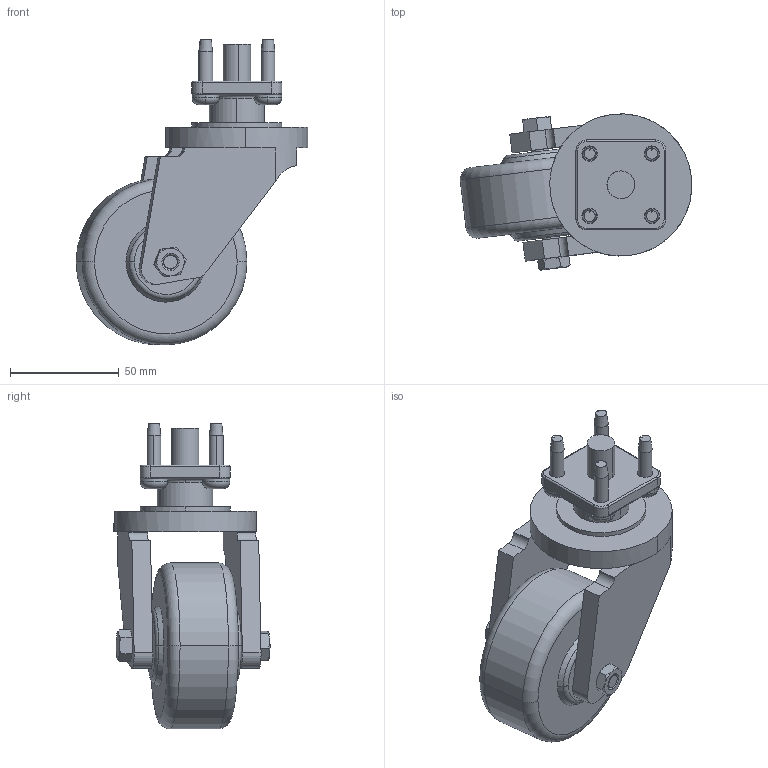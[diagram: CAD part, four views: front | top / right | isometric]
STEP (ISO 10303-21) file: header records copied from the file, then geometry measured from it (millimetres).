
FILE_DESCRIPTION (( 'STEP AP214' ), '1' );
FILE_NAME ('H030131100.STEP', '2020-06-02T12:06:15', ( '' ), ( '' ), 'SwSTEP 2.0', 'SolidWorks 2020', '' );
FILE_SCHEMA (( 'AUTOMOTIVE_DESIGN' ));
Length unit declared in the file: inch
Products named in the file (9): caster base; Hex Bolt_Derived Ansi Inch Standard_HBOLT 0.3125-18x2.5x0.875-N; H030131100; H0200421; wheel; H030092100; 25C100PTFZ; Hex Jam Nut_Derived Ansi Inch Standard_HJNUT 0.3125-18-D-N; Flat Washer Type A Selected Wide_Derived Ansi Inch Standard_Selected Wide FW 0.5
Assembly tree (11 placements, depth 3):
  H030131100
    H0200421
    25C100PTFZ  x4
    H030092100
      caster base
      wheel
      Hex Jam Nut_Derived Ansi Inch Standard_HJNUT 0.3125-18-D-N
      Hex Bolt_Derived Ansi Inch Standard_HBOLT 0.3125-18x2.5x0.875-N
    Flat Washer Type A Selected Wide_Derived Ansi Inch Standard_Selected Wide FW 0.5
Bounding box: 106.34 x 71.63 x 140.41 mm (x, y, z)
Volume: 259272.6 mm3; surface area: 55963.4 mm2
Topology: 10 solids, 10 shells, 341 faces, 840 edges, 532 vertices
Faces by surface type: cylinder 130, plane 127, cone 58, torus 26
Entity records: 6489 total; most frequent: CARTESIAN_POINT 1367, DIRECTION 1041, ORIENTED_EDGE 948, EDGE_CURVE 474, AXIS2_PLACEMENT_3D 427, VERTEX_POINT 295, EDGE_LOOP 227, CIRCLE 212
